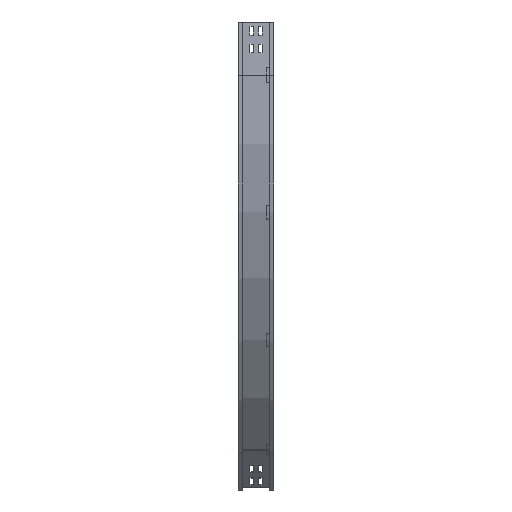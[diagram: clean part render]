
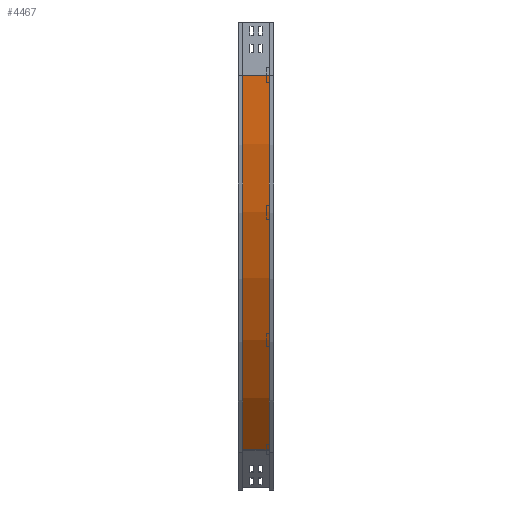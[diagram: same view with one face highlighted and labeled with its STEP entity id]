
A CAD part, left-side view. The second image highlights one B-rep face of the part: STEP entity #4467.
In plain terms, the highlighted cylindrical face has radius 1500 mm (diameter 3000 mm), a partial arc.
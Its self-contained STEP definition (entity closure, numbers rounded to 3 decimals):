
#151 = DIRECTION ( 'NONE',  ( 0., -1., 0. ) ) ;
#480 = LINE ( 'NONE', #4270, #3408 ) ;
#593 = VERTEX_POINT ( 'NONE', #1229 ) ;
#610 = CARTESIAN_POINT ( 'NONE',  ( 448.34, 12., -1210.66 ) ) ;
#870 = DIRECTION ( 'NONE',  ( -1., 0., 0. ) ) ;
#1063 = FACE_OUTER_BOUND ( 'NONE', #3322, .T. ) ;
#1098 = EDGE_CURVE ( 'NONE', #593, #3458, #480, .T. ) ;
#1154 = DIRECTION ( 'NONE',  ( 0., -1., 0. ) ) ;
#1229 = CARTESIAN_POINT ( 'NONE',  ( 9., 88., -150. ) ) ;
#1246 = ORIENTED_EDGE ( 'NONE', *, *, #1098, .F. ) ;
#1251 = CIRCLE ( 'NONE', #1759, 1500. ) ;
#1309 = ORIENTED_EDGE ( 'NONE', *, *, #1322, .F. ) ;
#1322 = EDGE_CURVE ( 'NONE', #3458, #1793, #3561, .T. ) ;
#1345 = CARTESIAN_POINT ( 'NONE',  ( 1509., 12., -150. ) ) ;
#1689 = CARTESIAN_POINT ( 'NONE',  ( 9., 12., -150. ) ) ;
#1759 = AXIS2_PLACEMENT_3D ( 'NONE', #3528, #4086, #2356 ) ;
#1793 = VERTEX_POINT ( 'NONE', #610 ) ;
#2356 = DIRECTION ( 'NONE',  ( -1., 0., 0. ) ) ;
#2544 = EDGE_CURVE ( 'NONE', #593, #2861, #1251, .T. ) ;
#2715 = DIRECTION ( 'NONE',  ( 0., -1., 0. ) ) ;
#2741 = LINE ( 'NONE', #3721, #3954 ) ;
#2799 = CARTESIAN_POINT ( 'NONE',  ( 1509., 0., -150. ) ) ;
#2829 = AXIS2_PLACEMENT_3D ( 'NONE', #1345, #2715, #870 ) ;
#2861 = VERTEX_POINT ( 'NONE', #3009 ) ;
#3009 = CARTESIAN_POINT ( 'NONE',  ( 448.34, 88., -1210.66 ) ) ;
#3234 = AXIS2_PLACEMENT_3D ( 'NONE', #2799, #1154, #4510 ) ;
#3322 = EDGE_LOOP ( 'NONE', ( #1309, #1246, #4224, #3726 ) ) ;
#3393 = DIRECTION ( 'NONE',  ( 0., -1., 0. ) ) ;
#3408 = VECTOR ( 'NONE', #151, 1000. ) ;
#3458 = VERTEX_POINT ( 'NONE', #1689 ) ;
#3528 = CARTESIAN_POINT ( 'NONE',  ( 1509., 88., -150. ) ) ;
#3561 = CIRCLE ( 'NONE', #2829, 1500. ) ;
#3721 = CARTESIAN_POINT ( 'NONE',  ( 448.34, 12., -1210.66 ) ) ;
#3726 = ORIENTED_EDGE ( 'NONE', *, *, #3916, .T. ) ;
#3829 = CYLINDRICAL_SURFACE ( 'NONE', #3234, 1500. ) ;
#3916 = EDGE_CURVE ( 'NONE', #2861, #1793, #2741, .T. ) ;
#3954 = VECTOR ( 'NONE', #3393, 1000. ) ;
#4086 = DIRECTION ( 'NONE',  ( 0., -1., 0. ) ) ;
#4224 = ORIENTED_EDGE ( 'NONE', *, *, #2544, .T. ) ;
#4270 = CARTESIAN_POINT ( 'NONE',  ( 9., 12., -150. ) ) ;
#4467 = ADVANCED_FACE ( 'NONE', ( #1063 ), #3829, .T. ) ;
#4510 = DIRECTION ( 'NONE',  ( 0., 0., -1. ) ) ;
